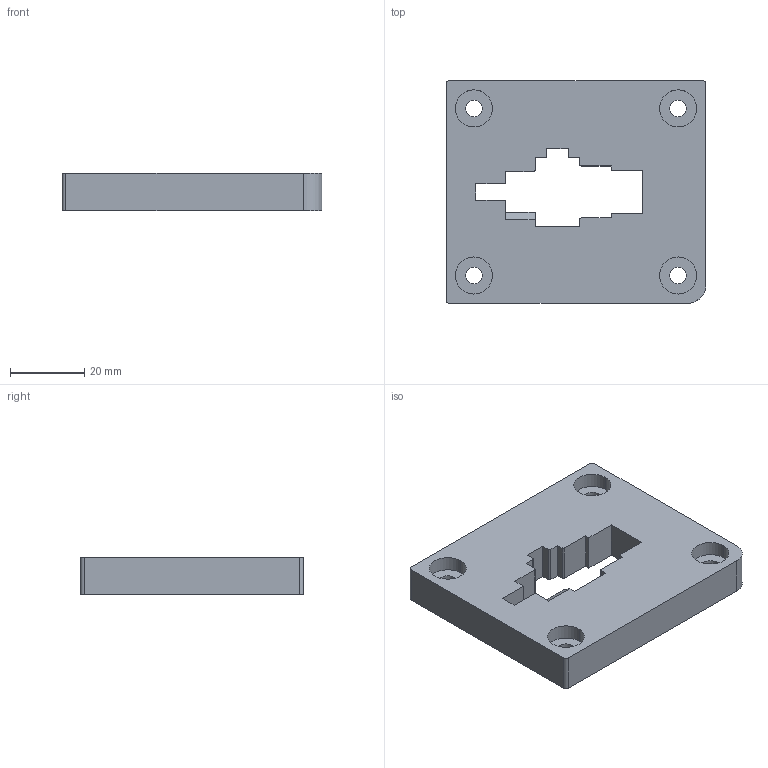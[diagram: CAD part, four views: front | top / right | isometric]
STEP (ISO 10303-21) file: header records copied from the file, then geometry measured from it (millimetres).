
FILE_DESCRIPTION(('CATIA V5 STEP Exchange'),'2;1');
FILE_NAME('D:\姚明阳\1、工装图纸\2、腰托阀（开关）治具工装 -2022.11.26更新\AGZL01 腰托阀压钢珠工装1\AGZL01 设计文件（pdf+stp）\AGZL01.02_V2.stp','2022-12-28T02:02:56+00:00',('none'),('none'),'CATIA Version 5 Release 21 GA (IN-10)','CATIA V5 STEP AP214','none');
FILE_SCHEMA(('AUTOMOTIVE_DESIGN { 1 0 10303 214 1 1 1 1 }'));
Length unit declared in the file: millimetre
Products named in the file (1): AGZL01.02_V2
Bounding box: 70 x 60 x 10 mm (x, y, z)
Volume: 34529.2 mm3; surface area: 11816.2 mm2
Topology: 1 solids, 1 shells, 60 faces, 162 edges, 108 vertices
Faces by surface type: plane 35, cylinder 25
Entity records: 1808 total; most frequent: ORIENTED_EDGE 324, CARTESIAN_POINT 315, DIRECTION 250, EDGE_CURVE 162, VECTOR 112, LINE 112, VERTEX_POINT 108, AXIS2_PLACEMENT_3D 95
